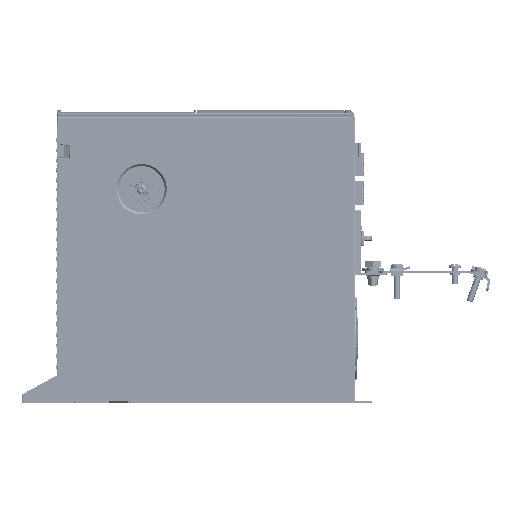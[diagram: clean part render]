
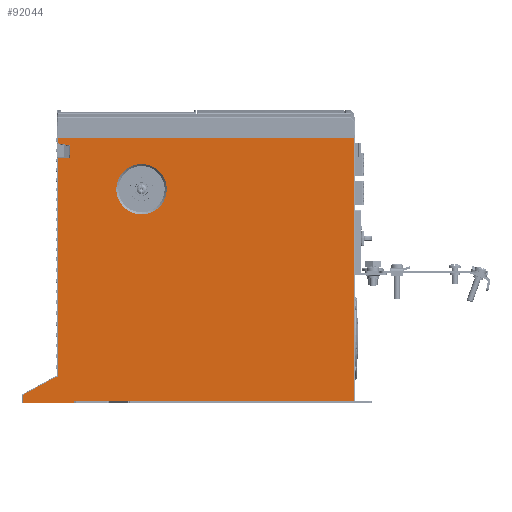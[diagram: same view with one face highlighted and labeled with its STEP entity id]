
A CAD part, left-side view. The second image highlights one B-rep face of the part: STEP entity #92044.
In plain terms, the highlighted planar face has unit normal (-1, 0, 0).
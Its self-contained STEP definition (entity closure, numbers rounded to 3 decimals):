
#47710=DIRECTION('',(0.,-1.,0.));
#47711=VECTOR('',#47710,33.456);
#47712=CARTESIAN_POINT('',(-52.5,22.,-173.1));
#47713=LINE('',#47712,#47711);
#47738=DIRECTION('',(0.,0.,-1.));
#47739=VECTOR('',#47738,5.203);
#47740=CARTESIAN_POINT('',(-52.5,22.,-167.897));
#47741=LINE('',#47740,#47739);
#47761=DIRECTION('',(0.,-0.878,0.479));
#47762=VECTOR('',#47761,24.55);
#47763=CARTESIAN_POINT('',(-52.5,22.,-167.897));
#47764=LINE('',#47763,#47762);
#47765=DIRECTION('',(0.,-0.996,0.087));
#47766=VECTOR('',#47765,0.951);
#47767=CARTESIAN_POINT('',(-52.5,0.448,-156.141));
#47768=LINE('',#47767,#47766);
#47769=DIRECTION('',(0.,0.985,0.174));
#47770=VECTOR('',#47769,8.22);
#47771=CARTESIAN_POINT('',(-52.5,-8.595,-6.341));
#47772=LINE('',#47771,#47770);
#47773=DIRECTION('',(0.,-1.,0.));
#47774=VECTOR('',#47773,192.);
#47775=CARTESIAN_POINT('',(-52.5,-0.5,-1.688));
#47776=LINE('',#47775,#47774);
#47777=DIRECTION('',(0.,1.,0.));
#47778=VECTOR('',#47777,181.009);
#47779=CARTESIAN_POINT('',(-52.5,-192.5,-171.6));
#47780=LINE('',#47779,#47778);
#47781=CARTESIAN_POINT('',(-52.5,-11.491,-171.6));
#47782=CARTESIAN_POINT('',(-52.5,-11.474,-172.1));
#47783=CARTESIAN_POINT('',(-52.5,-11.474,-172.6));
#47784=CARTESIAN_POINT('',(-52.5,-11.456,-173.1));
#47786=CARTESIAN_POINT('',(-52.5,-54.9,-34.7));
#47787=DIRECTION('',(-1.,0.,0.));
#47788=DIRECTION('',(0.,-1.,0.));
#47789=AXIS2_PLACEMENT_3D('',#47786,#47787,#47788);
#47791=CARTESIAN_POINT('',(-52.5,-54.9,-34.7));
#47792=DIRECTION('',(-1.,0.,0.));
#47793=DIRECTION('',(0.,0.,1.));
#47794=AXIS2_PLACEMENT_3D('',#47791,#47792,#47793);
#47796=CARTESIAN_POINT('',(-52.5,-54.9,-34.7));
#47797=DIRECTION('',(-1.,0.,0.));
#47798=DIRECTION('',(0.,1.,0.));
#47799=AXIS2_PLACEMENT_3D('',#47796,#47797,#47798);
#47801=CARTESIAN_POINT('',(-52.5,-54.9,-34.7));
#47802=DIRECTION('',(-1.,0.,0.));
#47803=DIRECTION('',(0.,0.,-1.));
#47804=AXIS2_PLACEMENT_3D('',#47801,#47802,#47803);
#47852=DIRECTION('',(0.,0.,-1.));
#47853=VECTOR('',#47852,141.363);
#47854=CARTESIAN_POINT('',(-52.5,-0.5,-14.695));
#47855=LINE('',#47854,#47853);
#47871=DIRECTION('',(0.,1.,0.));
#47872=VECTOR('',#47871,8.095);
#47873=CARTESIAN_POINT('',(-52.5,-8.595,-14.695));
#47874=LINE('',#47873,#47872);
#47964=DIRECTION('',(0.,0.,-1.));
#47965=VECTOR('',#47964,8.354);
#47966=CARTESIAN_POINT('',(-52.5,-8.595,-6.341));
#47967=LINE('',#47966,#47965);
#48018=DIRECTION('',(0.,0.,-1.));
#48019=VECTOR('',#48018,3.226);
#48020=CARTESIAN_POINT('',(-52.5,-0.5,-1.688));
#48021=LINE('',#48020,#48019);
#48032=DIRECTION('',(0.,0.,1.));
#48033=VECTOR('',#48032,169.912);
#48034=CARTESIAN_POINT('',(-52.5,-192.5,-171.6));
#48035=LINE('',#48034,#48033);
#80159=CARTESIAN_POINT('',(-52.5,22.,-167.897));
#80160=CARTESIAN_POINT('',(-52.5,0.448,-156.141));
#80161=VERTEX_POINT('',#80159);
#80162=VERTEX_POINT('',#80160);
#80171=CARTESIAN_POINT('',(-52.5,-0.5,-156.058));
#80172=VERTEX_POINT('',#80171);
#80173=CARTESIAN_POINT('',(-52.5,-0.5,-14.695));
#80174=VERTEX_POINT('',#80173);
#80175=CARTESIAN_POINT('',(-52.5,-8.595,-14.695));
#80176=VERTEX_POINT('',#80175);
#80177=CARTESIAN_POINT('',(-52.5,-8.595,-6.341));
#80178=VERTEX_POINT('',#80177);
#80179=CARTESIAN_POINT('',(-52.5,-0.5,-4.914));
#80180=VERTEX_POINT('',#80179);
#80181=CARTESIAN_POINT('',(-52.5,-0.5,-1.688));
#80182=VERTEX_POINT('',#80181);
#80183=CARTESIAN_POINT('',(-52.5,-192.5,-1.688));
#80184=VERTEX_POINT('',#80183);
#80185=CARTESIAN_POINT('',(-52.5,-192.5,-171.6));
#80186=VERTEX_POINT('',#80185);
#80187=CARTESIAN_POINT('',(-52.5,-11.491,-171.6));
#80188=VERTEX_POINT('',#80187);
#80189=VERTEX_POINT('',#47784);
#80190=CARTESIAN_POINT('',(-52.5,22.,-173.1));
#80191=VERTEX_POINT('',#80190);
#80192=CARTESIAN_POINT('',(-52.5,-54.9,-18.35));
#80193=CARTESIAN_POINT('',(-52.5,-38.55,-34.7));
#80194=VERTEX_POINT('',#80192);
#80195=VERTEX_POINT('',#80193);
#80196=CARTESIAN_POINT('',(-52.5,-71.25,-34.7));
#80197=VERTEX_POINT('',#80196);
#80198=CARTESIAN_POINT('',(-52.5,-54.9,-51.05));
#80199=VERTEX_POINT('',#80198);
#92004=CARTESIAN_POINT('',(-52.5,0.,-173.1));
#92005=DIRECTION('',(-1.,0.,0.));
#92006=DIRECTION('',(0.,0.,1.));
#92007=AXIS2_PLACEMENT_3D('',#92004,#92005,#92006);
#92008=PLANE('',#92007);
#92009=ORIENTED_EDGE('',*,*,#91994,.T.);
#92011=ORIENTED_EDGE('',*,*,#92010,.T.);
#92013=ORIENTED_EDGE('',*,*,#92012,.F.);
#92015=ORIENTED_EDGE('',*,*,#92014,.F.);
#92017=ORIENTED_EDGE('',*,*,#92016,.F.);
#92019=ORIENTED_EDGE('',*,*,#92018,.T.);
#92021=ORIENTED_EDGE('',*,*,#92020,.F.);
#92023=ORIENTED_EDGE('',*,*,#92022,.T.);
#92025=ORIENTED_EDGE('',*,*,#92024,.F.);
#92027=ORIENTED_EDGE('',*,*,#92026,.T.);
#92029=ORIENTED_EDGE('',*,*,#92028,.T.);
#92030=ORIENTED_EDGE('',*,*,#91948,.F.);
#92031=ORIENTED_EDGE('',*,*,#91972,.F.);
#92032=EDGE_LOOP('',(#92009,#92011,#92013,#92015,#92017,#92019,#92021,#92023,
#92025,#92027,#92029,#92030,#92031));
#92033=FACE_OUTER_BOUND('',#92032,.F.);
#92035=ORIENTED_EDGE('',*,*,#92034,.T.);
#92037=ORIENTED_EDGE('',*,*,#92036,.T.);
#92039=ORIENTED_EDGE('',*,*,#92038,.T.);
#92041=ORIENTED_EDGE('',*,*,#92040,.T.);
#92042=EDGE_LOOP('',(#92035,#92037,#92039,#92041));
#92043=FACE_BOUND('',#92042,.F.);
#47785=B_SPLINE_CURVE_WITH_KNOTS('',3,(#47781,#47782,#47783,#47784),
.UNSPECIFIED.,.F.,.F.,(4,4),(0.,1.),.UNSPECIFIED.);
#47790=CIRCLE('',#47789,16.35);
#47795=CIRCLE('',#47794,16.35);
#47800=CIRCLE('',#47799,16.35);
#47805=CIRCLE('',#47804,16.35);
#91948=EDGE_CURVE('',#80191,#80189,#47713,.T.);
#91972=EDGE_CURVE('',#80161,#80191,#47741,.T.);
#91994=EDGE_CURVE('',#80161,#80162,#47764,.T.);
#92010=EDGE_CURVE('',#80162,#80172,#47768,.T.);
#92012=EDGE_CURVE('',#80174,#80172,#47855,.T.);
#92014=EDGE_CURVE('',#80176,#80174,#47874,.T.);
#92016=EDGE_CURVE('',#80178,#80176,#47967,.T.);
#92018=EDGE_CURVE('',#80178,#80180,#47772,.T.);
#92020=EDGE_CURVE('',#80182,#80180,#48021,.T.);
#92022=EDGE_CURVE('',#80182,#80184,#47776,.T.);
#92024=EDGE_CURVE('',#80186,#80184,#48035,.T.);
#92026=EDGE_CURVE('',#80186,#80188,#47780,.T.);
#92028=EDGE_CURVE('',#80188,#80189,#47785,.T.);
#92034=EDGE_CURVE('',#80197,#80194,#47790,.T.);
#92036=EDGE_CURVE('',#80194,#80195,#47795,.T.);
#92038=EDGE_CURVE('',#80195,#80199,#47800,.T.);
#92040=EDGE_CURVE('',#80199,#80197,#47805,.T.);
#92044=ADVANCED_FACE('',(#92033,#92043),#92008,.T.);
